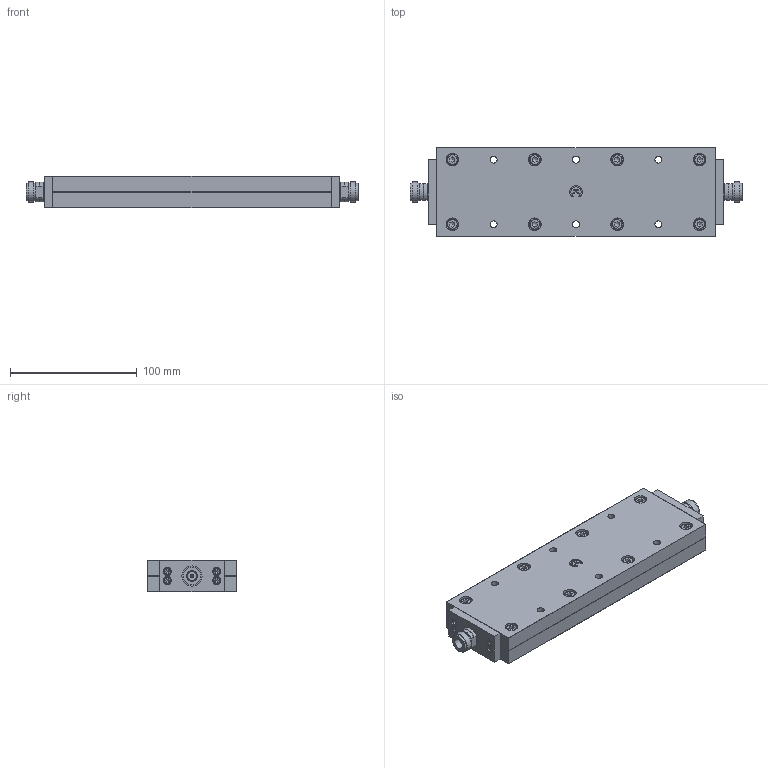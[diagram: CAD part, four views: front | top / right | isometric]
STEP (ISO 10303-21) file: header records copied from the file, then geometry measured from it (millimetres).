
FILE_DESCRIPTION(('STEP AP203'), '1');
FILE_NAME('ÏÐ1-25-500-3-NFF', '', ('UNSPECIFIED'), ('UNSPECIFIED'), 'C3D Converter', 'C3D Toolkit', '');
FILE_SCHEMA(('CONFIG_CONTROL_DESIGN'));
Length unit declared in the file: millimetre
Products named in the file (10): -01; #678
Assembly tree (22 placements, depth 2):
  (unnamed)
    (unnamed)
    (unnamed)
    (unnamed)
    (unnamed)  x4
    (unnamed)  x8
    -01
    #678  x4
    (unnamed)
    -01
Bounding box: 262 x 70 x 25 mm (x, y, z)
Volume: 399407.1 mm3; surface area: 99163.7 mm2
Topology: 22 solids, 22 shells, 468 faces, 1034 edges, 662 vertices
Faces by surface type: plane 262, cylinder 128, cone 42, torus 36
Full cylindrical faces by diameter (mm): 1.66 x2, 2.459 x4, 2.5 x4, 3 x16, 3.04 x2, 4.2 x8, 5 x8, 5.5 x28, 6.5 x8, 7 x2, 8.06 x2, 8.5 x8, 10 x8, 11.6 x2, 14 x4, 15.87 x2, 16 x4
Entity records: 9366 total; most frequent: CARTESIAN_POINT 2359, DIRECTION 1272, ORIENTED_EDGE 972, AXIS2_PLACEMENT_3D 519, EDGE_LOOP 496, EDGE_CURVE 486, VERTEX_POINT 378, FACE_BOUND 296
